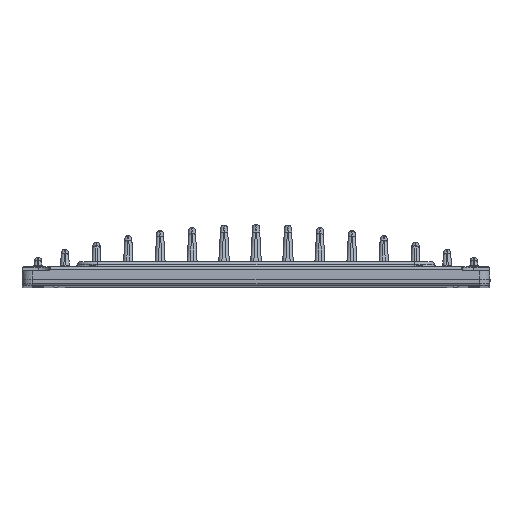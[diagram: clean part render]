
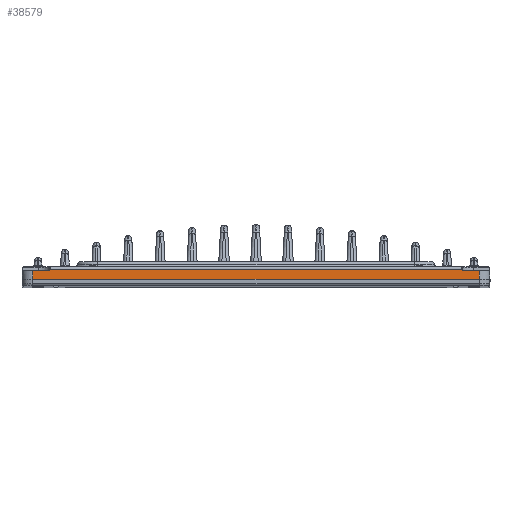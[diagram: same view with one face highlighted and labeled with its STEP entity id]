
A CAD part, top view. The second image highlights one B-rep face of the part: STEP entity #38579.
In plain terms, the highlighted planar face has unit normal (0, 0.018, 1).
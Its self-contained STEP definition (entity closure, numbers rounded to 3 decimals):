
#5876=CARTESIAN_POINT('',(77.004,3.017,324.933));
#5989=DIRECTION('',(-1.,0.,0.));
#5990=VECTOR('',#5989,6.393);
#5991=CARTESIAN_POINT('',(83.443,2.5,324.942));
#5992=LINE('',#5991,#5990);
#6010=CARTESIAN_POINT('',(83.443,2.5,324.942));
#6105=DIRECTION('',(-1.,0.,0.));
#6106=VECTOR('',#6105,6.393);
#6107=CARTESIAN_POINT('',(-77.05,2.5,324.942));
#6108=LINE('',#6107,#6106);
#6119=CARTESIAN_POINT('',(-83.443,2.5,324.942));
#6403=DIRECTION('',(-0.087,-0.996,0.017));
#6404=VECTOR('',#6403,0.52);
#6405=CARTESIAN_POINT('',(-77.004,3.017,324.933));
#6406=LINE('',#6405,#6404);
#6407=DIRECTION('',(1.,0.,0.));
#6408=VECTOR('',#6407,154.009);
#6409=CARTESIAN_POINT('',(-77.004,3.017,324.933));
#6410=LINE('',#6409,#6408);
#6411=DIRECTION('',(-0.087,0.996,-0.017));
#6412=VECTOR('',#6411,0.52);
#6413=CARTESIAN_POINT('',(77.05,2.5,324.942));
#6414=LINE('',#6413,#6412);
#6415=DIRECTION('',(0.017,-1.,0.017));
#6416=VECTOR('',#6415,3.301);
#6417=CARTESIAN_POINT('',(83.443,2.5,324.942));
#6418=LINE('',#6417,#6416);
#6419=DIRECTION('',(1.,0.,0.));
#6420=VECTOR('',#6419,167.001);
#6421=CARTESIAN_POINT('',(-83.501,-0.8,325.));
#6422=LINE('',#6421,#6420);
#6423=DIRECTION('',(-0.017,-1.,0.017));
#6424=VECTOR('',#6423,3.301);
#6425=CARTESIAN_POINT('',(-83.443,2.5,324.942));
#6426=LINE('',#6425,#6424);
#6427=CARTESIAN_POINT('',(-77.05,2.5,324.942));
#7865=CARTESIAN_POINT('',(77.05,2.5,324.942));
#32055=VERTEX_POINT('',#6427);
#32058=VERTEX_POINT('',#7865);
#34007=VERTEX_POINT('',#6010);
#34011=CARTESIAN_POINT('',(83.501,-0.8,325.));
#34012=VERTEX_POINT('',#34011);
#34014=VERTEX_POINT('',#6119);
#34015=CARTESIAN_POINT('',(-83.501,-0.8,325.));
#34016=VERTEX_POINT('',#34015);
#34061=CARTESIAN_POINT('',(-77.004,3.017,324.933));
#34062=VERTEX_POINT('',#34061);
#34069=VERTEX_POINT('',#5876);
#38559=CARTESIAN_POINT('',(-87.5,-0.8,325.));
#38560=DIRECTION('',(0.,0.017,1.));
#38561=DIRECTION('',(1.,0.,0.));
#38562=AXIS2_PLACEMENT_3D('',#38559,#38560,#38561);
#38563=PLANE('',#38562);
#38565=ORIENTED_EDGE('',*,*,#38564,.F.);
#38566=ORIENTED_EDGE('',*,*,#37635,.T.);
#38568=ORIENTED_EDGE('',*,*,#38567,.F.);
#38569=ORIENTED_EDGE('',*,*,#38037,.F.);
#38571=ORIENTED_EDGE('',*,*,#38570,.T.);
#38573=ORIENTED_EDGE('',*,*,#38572,.F.);
#38575=ORIENTED_EDGE('',*,*,#38574,.F.);
#38576=ORIENTED_EDGE('',*,*,#38139,.F.);
#38577=EDGE_LOOP('',(#38565,#38566,#38568,#38569,#38571,#38573,#38575,#38576));
#38578=FACE_OUTER_BOUND('',#38577,.F.);
#37635=EDGE_CURVE('',#34062,#34069,#6410,.T.);
#38037=EDGE_CURVE('',#34007,#32058,#5992,.T.);
#38139=EDGE_CURVE('',#32055,#34014,#6108,.T.);
#38564=EDGE_CURVE('',#34062,#32055,#6406,.T.);
#38567=EDGE_CURVE('',#32058,#34069,#6414,.T.);
#38570=EDGE_CURVE('',#34007,#34012,#6418,.T.);
#38572=EDGE_CURVE('',#34016,#34012,#6422,.T.);
#38574=EDGE_CURVE('',#34014,#34016,#6426,.T.);
#38579=ADVANCED_FACE('',(#38578),#38563,.T.);
